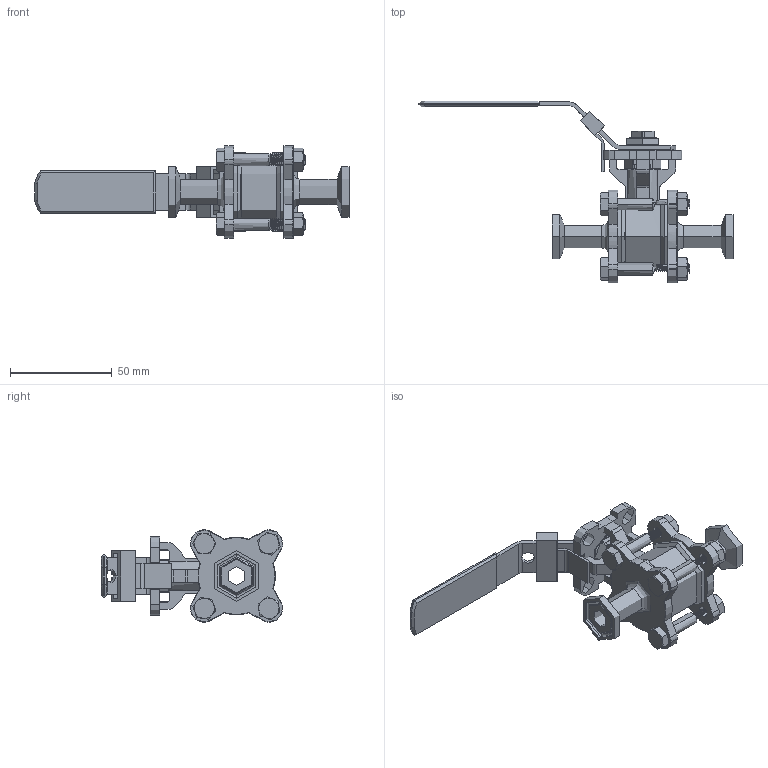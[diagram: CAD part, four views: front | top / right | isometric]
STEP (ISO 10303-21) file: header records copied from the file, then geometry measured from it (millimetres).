
FILE_DESCRIPTION (( 'STEP AP203' ), '1' );
FILE_NAME ('stc-4.STEP', '2021-06-22T20:08:05', ( 'Owner' ), ( '' ), 'SwSTEP 2.0', 'SolidWorks 2017', '' );
FILE_SCHEMA (( 'CONFIG_CONTROL_DESIGN' ));
Length unit declared in the file: inch
Products named in the file (29): m6x40-bolt; STC-4-BODY; STC-4-SEAT; stc-4-handle-nut; m6-nut; STC-4-ENDCAP; STC-4-BALL; stc-4; STC-4-STEM; m6x40-bolt_91287A142; m6-nut_91028A661; stc-4-handle
Assembly tree (26 placements, depth 2):
  STC-4-BODY
  stc-4-handle-nut
  STC-4-ENDCAP
  stc-4
    m6-nut
    m6-nut
    m6-nut
    m6x40-bolt
    m6x40-bolt
    m6x40-bolt
    m6-nut
    m6x40-bolt
  STC-4-ENDCAP
Bounding box: 154.37 x 89.38 x 45.56 mm (x, y, z)
Volume: 67151.8 mm3; surface area: 48900.6 mm2
Topology: 22 solids, 22 shells, 1020 faces, 2559 edges, 1598 vertices
Faces by surface type: cylinder 438, plane 255, cone 162, torus 127, bspline 28, sphere 10
Entity records: 26709 total; most frequent: CARTESIAN_POINT 9918, DIRECTION 2933, ORIENTED_EDGE 2918, EDGE_CURVE 1459, AXIS2_PLACEMENT_3D 1134, VERTEX_POINT 902, LINE 665, VECTOR 665
